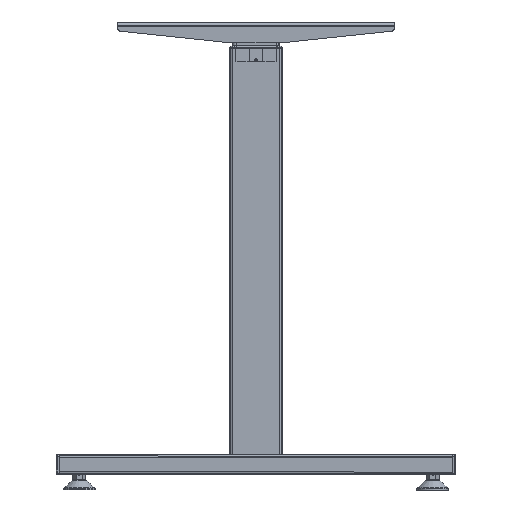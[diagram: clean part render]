
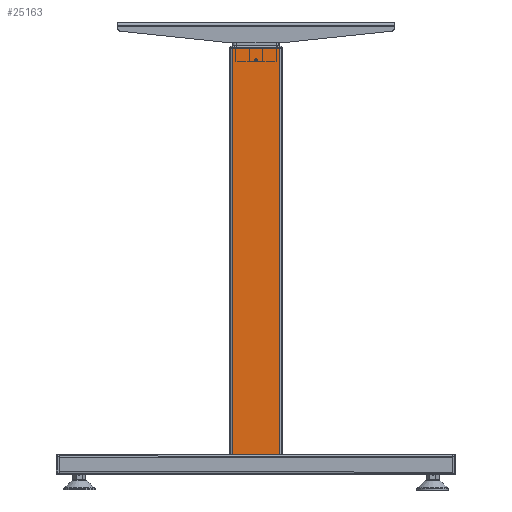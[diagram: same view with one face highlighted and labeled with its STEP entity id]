
A CAD part, front view. The second image highlights one B-rep face of the part: STEP entity #25163.
In plain terms, the highlighted planar face has unit normal (0, -1, 0) as drawn and (0, 0, -1) by its records, which use the part's own axes.
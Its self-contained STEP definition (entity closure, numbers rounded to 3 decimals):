
#1216=CIRCLE('',#26908,1.6);
#5490=ORIENTED_EDGE('',*,*,#9546,.F.);
#5491=ORIENTED_EDGE('',*,*,#9547,.F.);
#5492=ORIENTED_EDGE('',*,*,#9545,.F.);
#5493=ORIENTED_EDGE('',*,*,#9548,.T.);
#5494=ORIENTED_EDGE('',*,*,#9549,.T.);
#9545=EDGE_CURVE('',#11867,#11865,#13821,.T.);
#9546=EDGE_CURVE('',#11868,#11868,#1216,.T.);
#9547=EDGE_CURVE('',#11865,#11869,#13822,.T.);
#9548=EDGE_CURVE('',#11867,#11870,#13823,.T.);
#9549=EDGE_CURVE('',#11870,#11869,#13824,.T.);
#11865=VERTEX_POINT('',#39284);
#11867=VERTEX_POINT('',#39288);
#11868=VERTEX_POINT('',#39292);
#11869=VERTEX_POINT('',#39294);
#11870=VERTEX_POINT('',#39296);
#13821=LINE('',#39289,#15635);
#13822=LINE('',#39293,#15636);
#13823=LINE('',#39295,#15637);
#13824=LINE('',#39297,#15638);
#15635=VECTOR('',#31294,1000.);
#15636=VECTOR('',#31299,1000.);
#15637=VECTOR('',#31300,1000.);
#15638=VECTOR('',#31301,1000.);
#17127=EDGE_LOOP('',(#5490));
#17128=EDGE_LOOP('',(#5491,#5492,#5493,#5494));
#18681=FACE_BOUND('',#17127,.T.);
#18682=FACE_BOUND('',#17128,.T.);
#19813=PLANE('',#26907);
#25163=ADVANCED_FACE('',(#18681,#18682),#19813,.T.);
#26907=AXIS2_PLACEMENT_3D('',#39290,#31295,#31296);
#26908=AXIS2_PLACEMENT_3D('',#39291,#31297,#31298);
#31294=DIRECTION('',(0.,-1.,0.));
#31295=DIRECTION('',(0.,0.,-1.));
#31296=DIRECTION('',(-1.,0.,0.));
#31297=DIRECTION('',(0.,0.,-1.));
#31298=DIRECTION('',(-1.,0.,0.));
#31299=DIRECTION('',(1.,0.,0.));
#31300=DIRECTION('',(1.,0.,0.));
#31301=DIRECTION('',(0.,-1.,0.));
#39284=CARTESIAN_POINT('',(-35.,0.,-30.));
#39288=CARTESIAN_POINT('',(-35.,610.,-30.));
#39289=CARTESIAN_POINT('',(-35.,610.,-30.));
#39290=CARTESIAN_POINT('',(-35.,610.,-30.));
#39291=CARTESIAN_POINT('',(0.,592.,-30.));
#39292=CARTESIAN_POINT('',(-1.6,592.,-30.));
#39293=CARTESIAN_POINT('',(-35.,0.,-30.));
#39294=CARTESIAN_POINT('',(35.,0.,-30.));
#39295=CARTESIAN_POINT('',(-35.,610.,-30.));
#39296=CARTESIAN_POINT('',(35.,610.,-30.));
#39297=CARTESIAN_POINT('',(35.,610.,-30.));
